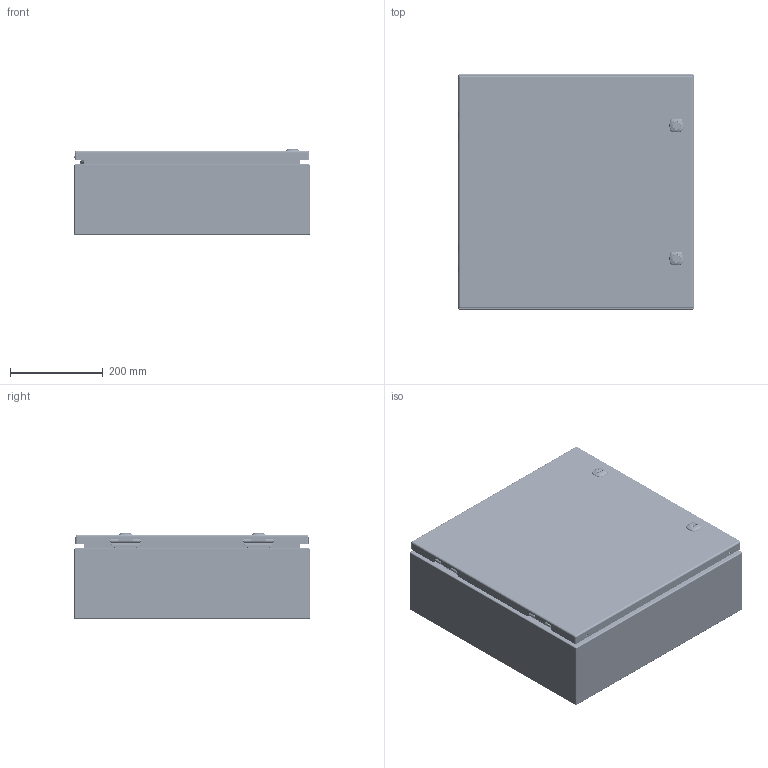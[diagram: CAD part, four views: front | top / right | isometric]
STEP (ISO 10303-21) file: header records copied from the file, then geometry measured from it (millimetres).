
FILE_DESCRIPTION(/* description */ ('5412ES 20" x 20" x 6" Assembly'),/* implementation_level */ '2;1');
FILE_NAME(/* name */ 'C:\Vault_Workspace\Inventor_Dwg\BoxCad\Result\5412ESB202006\e-mail\3D\5412ESB202006.stp',/* time_stamp */ '2022-03-11T16:32:47-05:00',/* author */ ('BoxCad'),/* organization */ (''),/* preprocessor_version */ 'ST-DEVELOPER v18.1',/* originating_system */ 'Autodesk Inventor 2020',/* authorisation */ '');
FILE_SCHEMA (('AUTOMOTIVE_DESIGN { 1 0 10303 214 3 1 1 }'));
Products named in the file (44): 5412ESB202006; 5412ESB202006B; 5412ESB202006B-P; STK-Q-16005; STUD_M6 x 16mm; STK-Q-07610; 881SP2020G; 881SP2020G-P; STK-Q-07310; 5412ESB202006C; 5412ESB202006C-P; 5412ESB202006G; STK-K-09800; STK-K-09800-2; STK-Q-33014; STK-Q-90398; STK-Q-40095; STK-Q-63410; STK-Q-16055; STK-Q-46020-20; STK-Q-07220-1; STK-Q-07220-2; STK-Q-07220-3; STK-Q-07220-4; STK-Q-07220-A; STK-Q-07220-B; STK-P-03820R; STK-S-00100; STK-A-880SCQ4-SL-1; STK-A-880SCQ4-SL-2; STK-Q-78110; STK-Q-78120; STK-Q-78145; STK-Q-03200; STK-Q-78125; STK-Q-78141; STK-Q-90390; STK-Q-78160; STK-Q-04050-07; STK-Q-04050-07-2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
Assembly tree (81 placements, depth 4):
  5412ESB202006
    5412ESB202006B
      5412ESB202006B-P
      STK-Q-16005  x4
      STK-P-03820R
      STUD_M6 x 16mm
    STK-Q-07610  x4
    881SP2020G
      881SP2020G-P
    STK-Q-07310  x4
    5412ESB202006C
      5412ESB202006C-P
      5412ESB202006G
      STK-K-09800
        STK-Q-33014
        STK-Q-90398
        STK-Q-40095  x2
        STK-Q-63410  x2
      STK-K-09800-2
        STK-Q-33014
        STK-Q-90398
        STK-Q-40095  x2
        STK-Q-63410  x2
      STK-Q-16055  x4
      STK-Q-46020-20  x2
      STK-Q-07220-1
        STK-Q-07220-A
        STK-Q-07220-B
      STK-Q-07220-2
        STK-Q-07220-A
        STK-Q-07220-B
      STK-Q-07220-3
        STK-Q-07220-A
        STK-Q-07220-B
      STK-Q-07220-4
        STK-Q-07220-A
        STK-Q-07220-B
      STK-P-03820R
      STK-S-00100
      STK-A-880SCQ4-SL-1
        STK-Q-78110
        STK-Q-78120
        STK-Q-78145
        STK-Q-03200
        STK-Q-78125
        STK-Q-78141
        STK-Q-90390
        STK-Q-78160
      STK-A-880SCQ4-SL-2
        STK-Q-78110
        STK-Q-78120
        STK-Q-78145
        STK-Q-03200
        STK-Q-78125
        STK-Q-78141
        STK-Q-90390
        STK-Q-78160
    STK-Q-04050-07
      STK-Q-04050-07-P
      STK-Q-04050-N
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Bounding box: 508.07 x 508 x 185.55 mm (x, y, z)
Volume: 2003596.6 mm3; surface area: 2499048.6 mm2
Topology: 64 solids, 64 shells, 9536 faces, 25580 edges, 16233 vertices
Faces by surface type: bspline 3404, plane 2705, cylinder 2452, torus 615, sphere 184, cone 176
Full cylindrical faces by diameter (mm): 0 x1, 0.75 x9, 0.762 x9, 1 x8, 1.1 x8, 3.2 x4, 4.191 x32, 4.5 x4, 4.521 x8, 4.75 x2, 4.85 x16, 4.95 x4, 5 x4, 5.1 x36, 5.156 x4, 5.6 x2, 5.9 x29, 6.015 x32, 6.65 x4, 6.8 x4, 6.85 x16, 7.3 x2, 7.366 x4, 7.9 x8, 8 x12, 8.382 x2, 9.5 x4, 9.6 x2, 9.906 x4, 10 x2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
Entity records: 151704 total; most frequent: CARTESIAN_POINT 63316, ORIENTED_EDGE 20278, DIRECTION 14577, EDGE_CURVE 10139, VERTEX_POINT 6411, AXIS2_PLACEMENT_3D 5360, EDGE_LOOP 4134, FACE_OUTER_BOUND 3897
